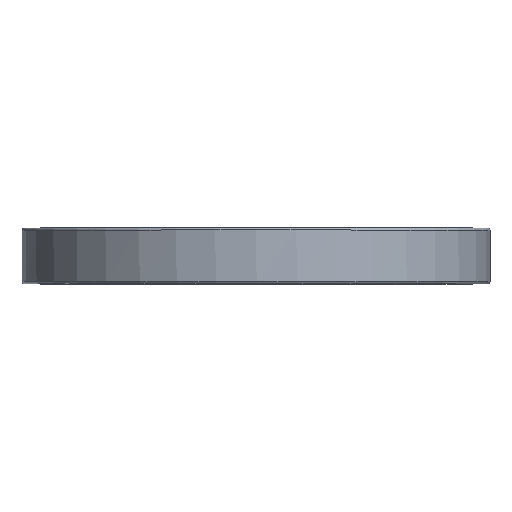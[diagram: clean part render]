
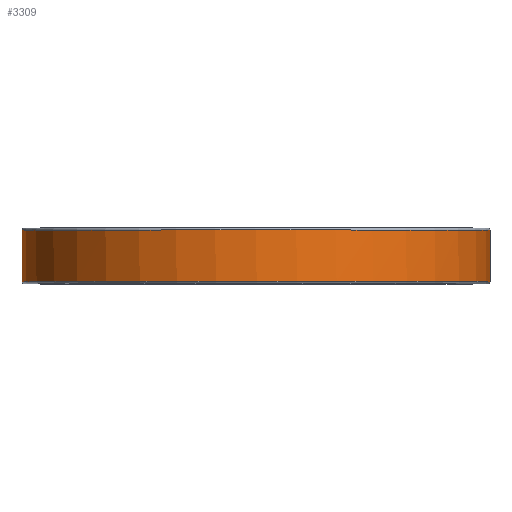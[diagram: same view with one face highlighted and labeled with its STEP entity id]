
A CAD part, top view. The second image highlights one B-rep face of the part: STEP entity #3309.
In plain terms, the highlighted cylindrical face has radius 105 mm (diameter 210 mm), a partial arc.
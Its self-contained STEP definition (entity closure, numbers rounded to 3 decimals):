
#2131=VERTEX_POINT('',#5423);
#2159=VERTEX_POINT('',#5453);
#2449=VERTEX_POINT('',#5789);
#2665=EDGE_CURVE('',#2131,#4487,#6032,.T.);
#2751=EDGE_CURVE('',#2449,#2159,#6131,.T.);
#2805=EDGE_CURVE('',#4497,#4495,#6187,.T.);
#2819=EDGE_CURVE('',#4495,#4487,#6202,.T.);
#3309=ADVANCED_FACE('',(#6749),#6750,.T.);
#4135=EDGE_CURVE('',#2131,#2449,#7726,.T.);
#4487=VERTEX_POINT('',#8109);
#4495=VERTEX_POINT('',#8117);
#4497=VERTEX_POINT('',#8119);
#5067=EDGE_CURVE('',#2159,#4497,#8751,.T.);
#5423=CARTESIAN_POINT('',(105.0,1.0,0.));
#5453=CARTESIAN_POINT('',(-105.0,1.0,0.));
#5789=CARTESIAN_POINT('',(-104.998,1.0,0.651));
#6032=LINE('',#9993,#9994);
#6131=CIRCLE('',#10113,105.0);
#6187=CIRCLE('',#10190,105.0);
#6202=CIRCLE('',#10210,105.0);
#6749=FACE_OUTER_BOUND('',#10913,.T.);
#6750=CYLINDRICAL_SURFACE('',#10914,105.0);
#7726=CIRCLE('',#12136,105.0);
#8109=CARTESIAN_POINT('',(105.0,24.0,0.));
#8117=CARTESIAN_POINT('',(104.999,24.0,0.458));
#8119=CARTESIAN_POINT('',(-105.0,24.0,0.));
#8751=LINE('',#13458,#13459);
#9993=CARTESIAN_POINT('',(105.0,1.0,0.));
#9994=VECTOR('',#14548,23.0);
#10113=AXIS2_PLACEMENT_3D('',#14691,#14692,#14693);
#10190=AXIS2_PLACEMENT_3D('',#14745,#14746,#14747);
#10210=AXIS2_PLACEMENT_3D('',#14763,#14764,#14765);
#10913=EDGE_LOOP('',(#15505,#15506,#15507,#15508,#15509,#15510));
#10914=AXIS2_PLACEMENT_3D('',#15511,#15512,#15513);
#12136=AXIS2_PLACEMENT_3D('',#16901,#16902,#16903);
#13458=CARTESIAN_POINT('',(-105.0,1.0,0.));
#13459=VECTOR('',#18138,23.0);
#14548=DIRECTION('',(0.0,1.0,0.));
#14691=CARTESIAN_POINT('',(0.0,1.0,0.0));
#14692=DIRECTION('',(0.0,-1.0,0.0));
#14693=DIRECTION('',(1.0,0.0,0.0));
#14745=CARTESIAN_POINT('',(0.0,24.0,0.0));
#14746=DIRECTION('',(0.0,1.0,0.0));
#14747=DIRECTION('',(-1.0,0.0,0.0));
#14763=CARTESIAN_POINT('',(0.0,24.0,0.0));
#14764=DIRECTION('',(0.0,1.0,0.0));
#14765=DIRECTION('',(-1.0,0.0,0.0));
#15505=ORIENTED_EDGE('',*,*,#5067,.F.);
#15506=ORIENTED_EDGE('',*,*,#2751,.F.);
#15507=ORIENTED_EDGE('',*,*,#4135,.F.);
#15508=ORIENTED_EDGE('',*,*,#2665,.T.);
#15509=ORIENTED_EDGE('',*,*,#2819,.F.);
#15510=ORIENTED_EDGE('',*,*,#2805,.F.);
#15511=CARTESIAN_POINT('',(0.0,0.0,0.0));
#15512=DIRECTION('',(-0.0,1.0,-0.0));
#15513=DIRECTION('',(1.0,0.0,0.0));
#16901=CARTESIAN_POINT('',(0.0,1.0,0.0));
#16902=DIRECTION('',(0.0,-1.0,0.0));
#16903=DIRECTION('',(1.0,0.0,0.0));
#18138=DIRECTION('',(0.0,1.0,0.));
